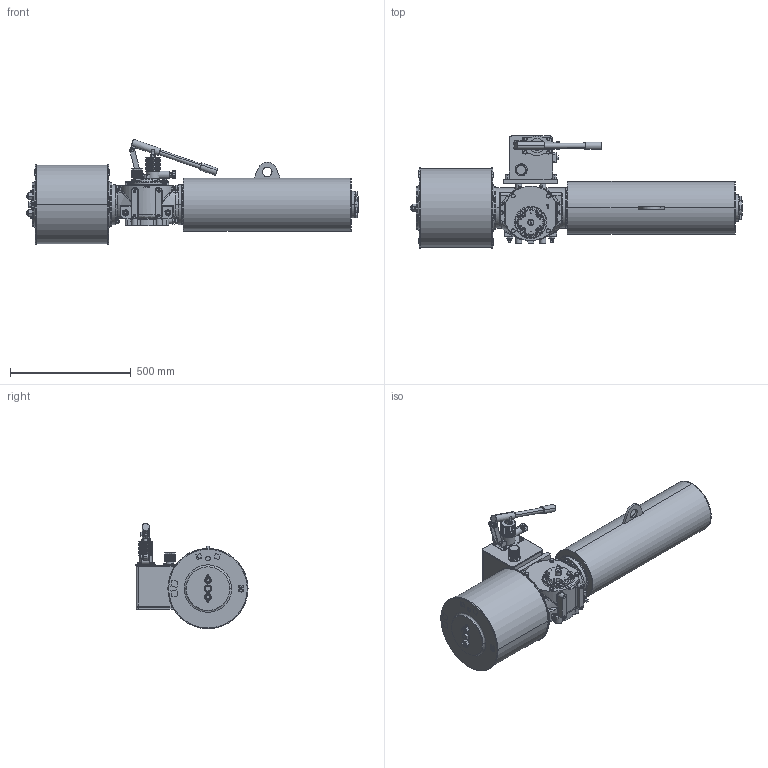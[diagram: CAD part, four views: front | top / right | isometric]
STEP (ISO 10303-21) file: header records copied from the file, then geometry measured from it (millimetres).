
FILE_DESCRIPTION (( 'STEP AP203' ), '1' );
FILE_NAME ('VTS1-300-SR-MH-FC.STEP', '2023-01-01T07:24:35', ( '' ), ( '' ), 'SwSTEP 2.0', 'SolidWorks 2020', '' );
FILE_SCHEMA (( 'CONFIG_CONTROL_DESIGN' ));
Products named in the file (1): VTS1-300-SR-MH-FC
Bounding box: 1373 x 463.9 x 436.27 mm (x, y, z)
Volume: 63188129.8 mm3; surface area: 2190639 mm2
Topology: 48 solids, 54 shells, 2479 faces, 6293 edges, 4000 vertices
Faces by surface type: plane 917, cylinder 825, cone 448, bspline 227, torus 34, sphere 28
Entity records: 100523 total; most frequent: CARTESIAN_POINT 43569, ORIENTED_EDGE 12410, DIRECTION 11007, EDGE_CURVE 6205, AXIS2_PLACEMENT_3D 4281, VERTEX_POINT 4000, EDGE_LOOP 2775, FACE_OUTER_BOUND 2479
